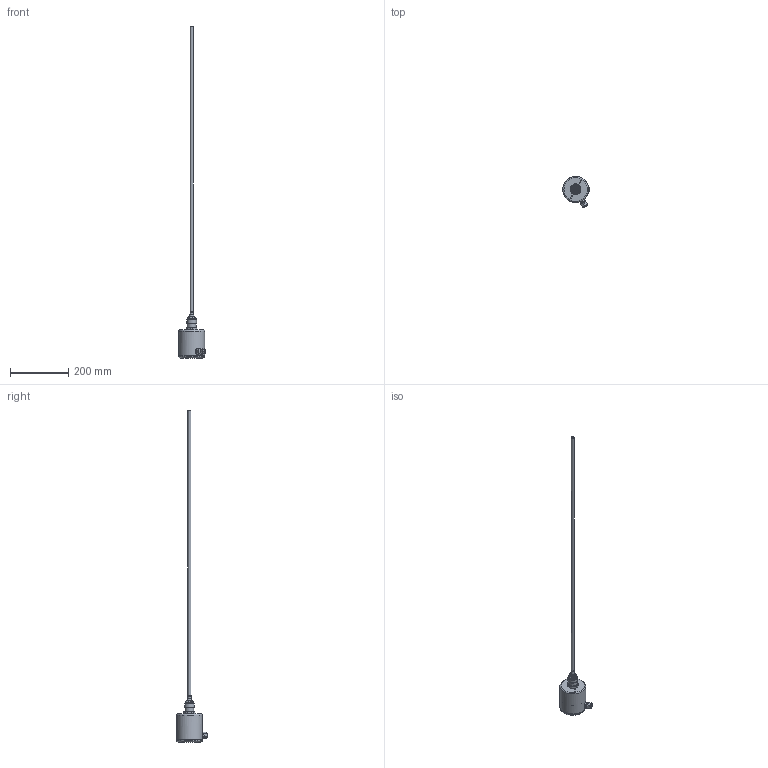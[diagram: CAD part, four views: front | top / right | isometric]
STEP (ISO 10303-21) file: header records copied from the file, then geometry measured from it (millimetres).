
FILE_DESCRIPTION(/* description */ ('Unknown'),/* implementation_level */ '2;1');
FILE_NAME(/* name */ 'LSP-050.100.1.000',/* time_stamp */ '2020-06-16T08:31:02+02:00',/* author */ ('Unknown'),/* organization */ ('Unknown'),/* preprocessor_version */ 'ST-DEVELOPER v16.7',/* originating_system */ 'DEX',/* authorisation */ $);
FILE_SCHEMA (('AUTOMOTIVE_DESIGN {1 0 10303 214 3 1 1}'));
Length unit declared in the file: millimetre
Products named in the file (1): Part1
Bounding box: 90.87 x 106.48 x 1140.56 mm (x, y, z)
Volume: 239605.2 mm3; surface area: 120942.4 mm2
Topology: 1 solids, 5 shells, 200 faces, 467 edges, 305 vertices
Faces by surface type: plane 84, cylinder 73, cone 33, torus 9, sphere 1
Full cylindrical faces by diameter (mm): 3 x6, 7 x1, 10 x3, 10.2 x1, 12 x2, 14 x1, 15.9 x1, 16 x4, 16.691 x1, 22 x2, 24 x1, 24.917 x1, 24.98 x1, 29.5 x2, 33.249 x1, 71 x1, 77 x1, 80 x2, 82 x2, 83 x1, 84 x1, 87 x1, 88.9 x1, 89 x1
Entity records: 6592 total; most frequent: CARTESIAN_POINT 1025, DIRECTION 906, ORIENTED_EDGE 704, AXIS2_PLACEMENT_3D 385, EDGE_CURVE 352, FACE_BOUND 314, EDGE_LOOP 312, VERTEX_POINT 268
